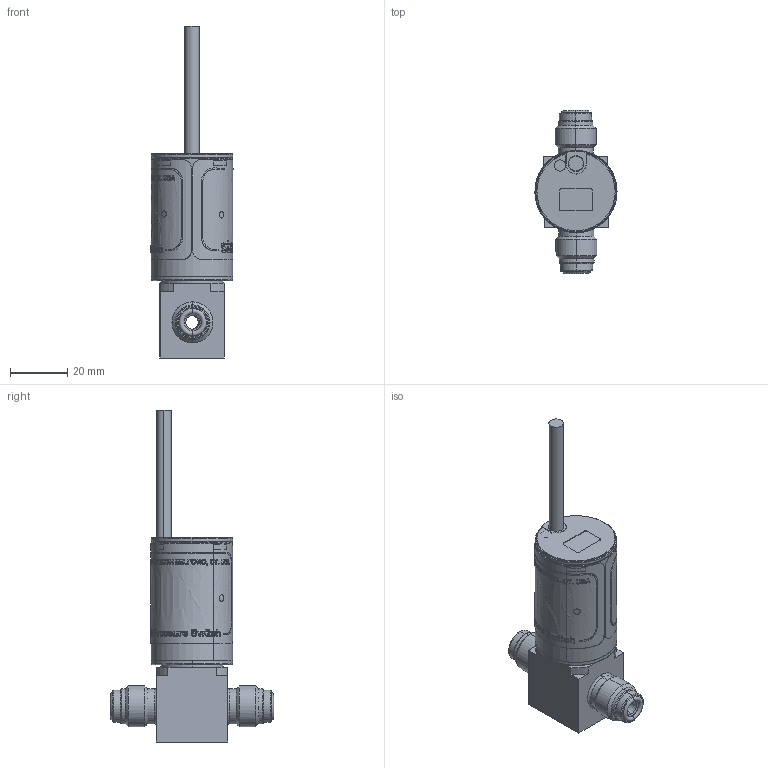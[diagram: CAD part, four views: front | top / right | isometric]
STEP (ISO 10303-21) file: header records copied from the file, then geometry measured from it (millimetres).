
FILE_DESCRIPTION (( 'STEP AP214' ), '1' );
FILE_NAME ('STASET GEN3 FLOWTHRU.STEP', '2023-08-30T13:35:14', ( '' ), ( '' ), 'SwSTEP 2.0', 'SolidWorks 2012', '' );
FILE_SCHEMA (( 'AUTOMOTIVE_DESIGN' ));
Length unit declared in the file: inch
Products named in the file (1): STASET GEN3 FLOWTHRU
Bounding box: 28.66 x 56.97 x 115.87 mm (x, y, z)
Surface area: 14942.3 mm2 (no closed solid volume)
Topology: 0 solids, 30 shells, 402 faces, 2589 edges, 2149 vertices
Faces by surface type: bspline 238, plane 70, cylinder 47, torus 35, cone 12
Entity records: 42473 total; most frequent: CARTESIAN_POINT 22619, ORIENTED_EDGE 3237, EDGE_CURVE 2589, VERTEX_POINT 2149, B_SPLINE_CURVE_WITH_KNOTS 1840, DIRECTION 1258, VECTOR 570, LINE 570
